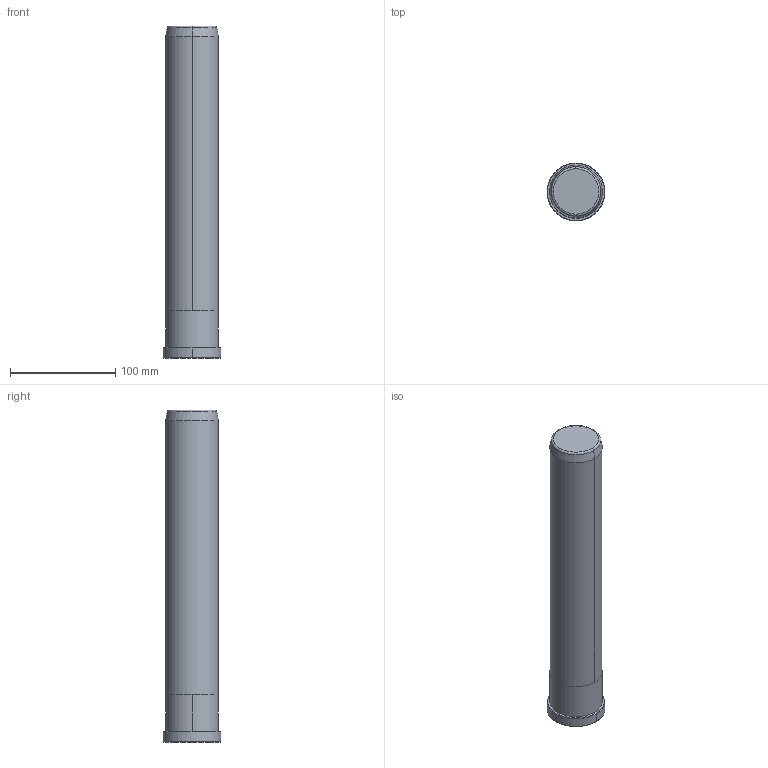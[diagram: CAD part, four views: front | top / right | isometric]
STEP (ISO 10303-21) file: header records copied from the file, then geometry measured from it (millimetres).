
FILE_DESCRIPTION((''),'2;1');
FILE_NAME('B80850315','2018-01-06T',('MANU'),(''),'PRO/ENGINEER BY PARAMETRIC TECHNOLOGY CORPORATION, 2012130','PRO/ENGINEER BY PARAMETRIC TECHNOLOGY CORPORATION, 2012130','');
FILE_SCHEMA(('CONFIG_CONTROL_DESIGN'));
Length unit declared in the file: millimetre
Products named in the file (1): B80850315
Bounding box: 55 x 55 x 315 mm (x, y, z)
Volume: 621202.9 mm3; surface area: 53906.2 mm2
Topology: 1 solids, 1 shells, 18 faces, 34 edges, 20 vertices
Faces by surface type: cone 6, cylinder 6, plane 4, torus 2
Entity records: 494 total; most frequent: DIRECTION 92, CARTESIAN_POINT 72, ORIENTED_EDGE 68, AXIS2_PLACEMENT_3D 40, EDGE_CURVE 34, CIRCLE 22, VERTEX_POINT 20, EDGE_LOOP 20
